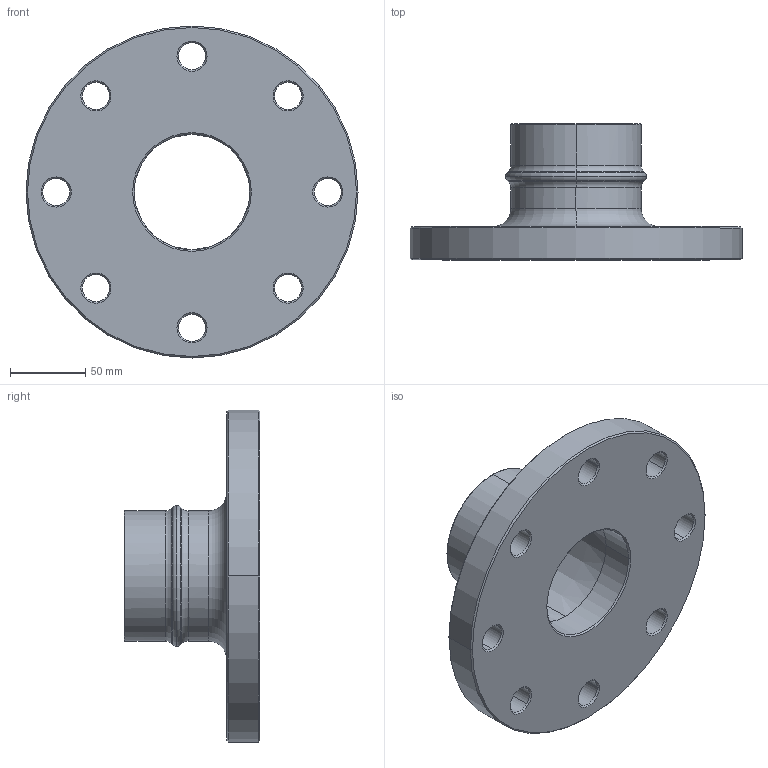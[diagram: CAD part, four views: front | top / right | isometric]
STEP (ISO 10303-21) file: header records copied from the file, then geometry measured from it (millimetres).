
FILE_DESCRIPTION((''),'2;1');
FILE_NAME('AU15867100','2019-12-13T',('Administrator'),(''),'PRO/ENGINEER BY PARAMETRIC TECHNOLOGY CORPORATION, 2009360','PRO/ENGINEER BY PARAMETRIC TECHNOLOGY CORPORATION, 2009360','');
FILE_SCHEMA(('AUTOMOTIVE_DESIGN_CC2 { 1 2 10303 214 -1 1 5 2 }'));
Length unit declared in the file: millimetre
Products named in the file (1): AU15867100
Bounding box: 220 x 90.02 x 220 mm (x, y, z)
Volume: 782671.9 mm3; surface area: 125855.7 mm2
Topology: 1 solids, 1 shells, 85 faces, 196 edges, 114 vertices
Faces by surface type: cone 44, cylinder 24, torus 14, plane 3
Entity records: 3073 total; most frequent: DIRECTION 494, CARTESIAN_POINT 395, ORIENTED_EDGE 392, AXIS2_PLACEMENT_3D 213, PRESENTATION_STYLE_ASSIGNMENT 197, STYLED_ITEM 197, CURVE_STYLE 196, EDGE_CURVE 196
